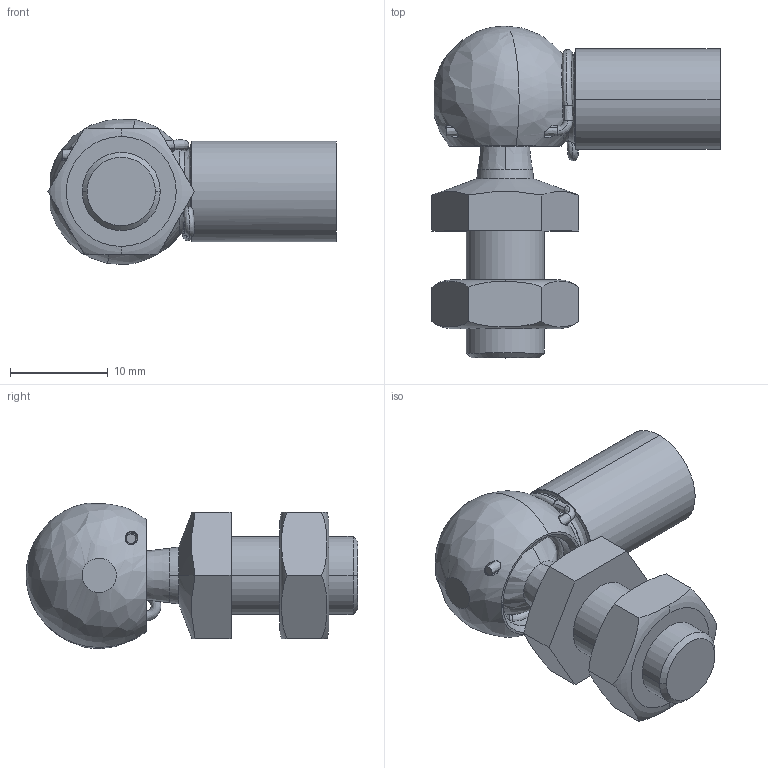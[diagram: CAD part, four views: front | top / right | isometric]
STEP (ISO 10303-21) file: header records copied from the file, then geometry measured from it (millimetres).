
FILE_DESCRIPTION (( 'STEP AP214' ), '1' );
FILE_NAME ('13.CS10M8.STEP', '2017-11-22T13:07:54', ( '' ), ( '' ), 'SwSTEP 2.0', 'SolidWorks 2016', '' );
FILE_SCHEMA (( 'AUTOMOTIVE_DESIGN' ));
Length unit declared in the file: millimetre
Products named in the file (1): 13.CS10M8
Bounding box: 29.51 x 34 x 14.87 mm (x, y, z)
Volume: 4153.1 mm3; surface area: 3197 mm2
Topology: 1 solids, 1 shells, 106 faces, 321 edges, 204 vertices
Faces by surface type: bspline 35, plane 28, cylinder 20, cone 19, torus 4
Entity records: 10534 total; most frequent: CARTESIAN_POINT 7993, ORIENTED_EDGE 608, DIRECTION 429, EDGE_CURVE 304, VERTEX_POINT 204, AXIS2_PLACEMENT_3D 182, EDGE_LOOP 120, B_SPLINE_CURVE_WITH_KNOTS 115
